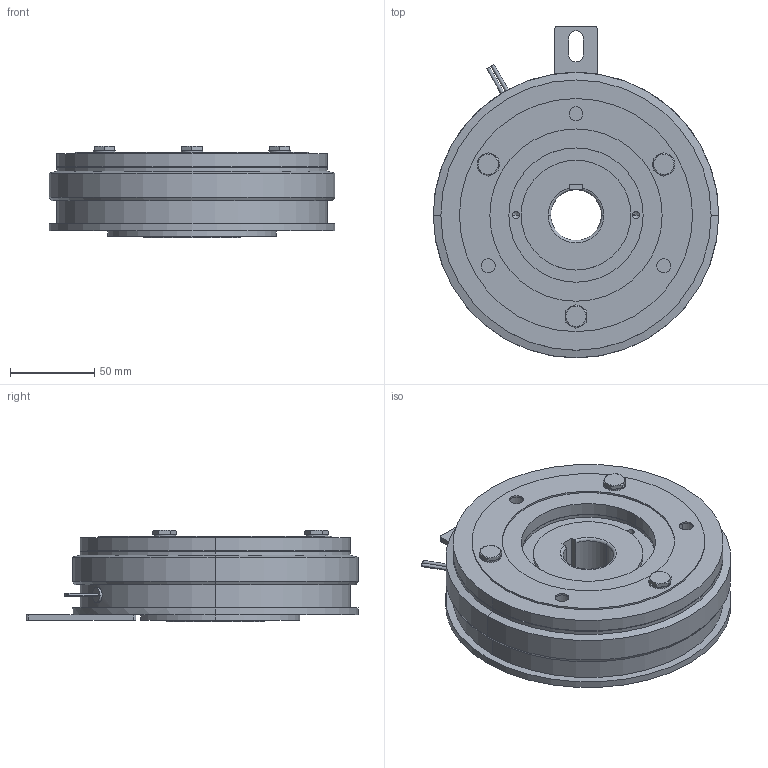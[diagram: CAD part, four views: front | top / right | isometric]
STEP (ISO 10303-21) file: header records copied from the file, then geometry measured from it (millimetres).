
FILE_DESCRIPTION (( 'STEP AP214' ), '1' );
FILE_NAME ('CS-16-33G 30DIN.STEP', '2018-02-09T08:08:41', ( 'MIKI' ), ( '' ), 'SwSTEP 2.0', 'SolidWorks 2012', '' );
FILE_SCHEMA (( 'AUTOMOTIVE_DESIGN' ));
Length unit declared in the file: millimetre
Products named in the file (1): CS-16-33G 30DIN
Bounding box: 169 x 196.5 x 54 mm (x, y, z)
Volume: 911931.1 mm3; surface area: 110756.7 mm2
Topology: 1 solids, 2 shells, 250 faces, 560 edges, 342 vertices
Faces by surface type: plane 109, cylinder 101, cone 34, torus 6
Entity records: 9922 total; most frequent: CARTESIAN_POINT 1443, DIRECTION 1290, ORIENTED_EDGE 1104, EDGE_CURVE 552, AXIS2_PLACEMENT_3D 529, VERTEX_POINT 342, EDGE_LOOP 294, CIRCLE 278
